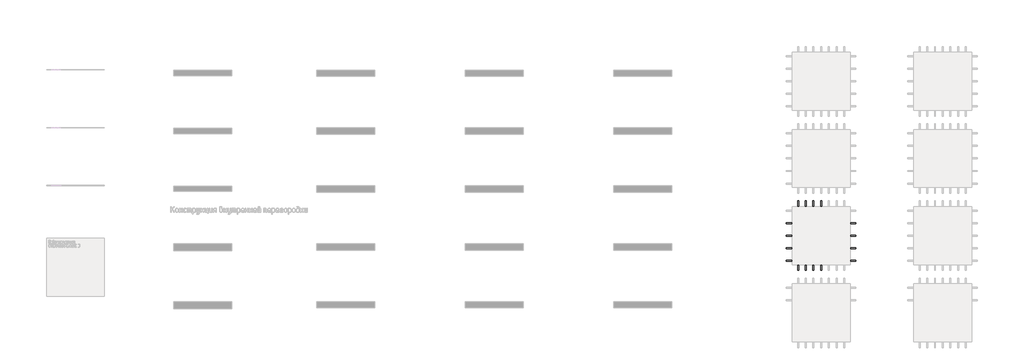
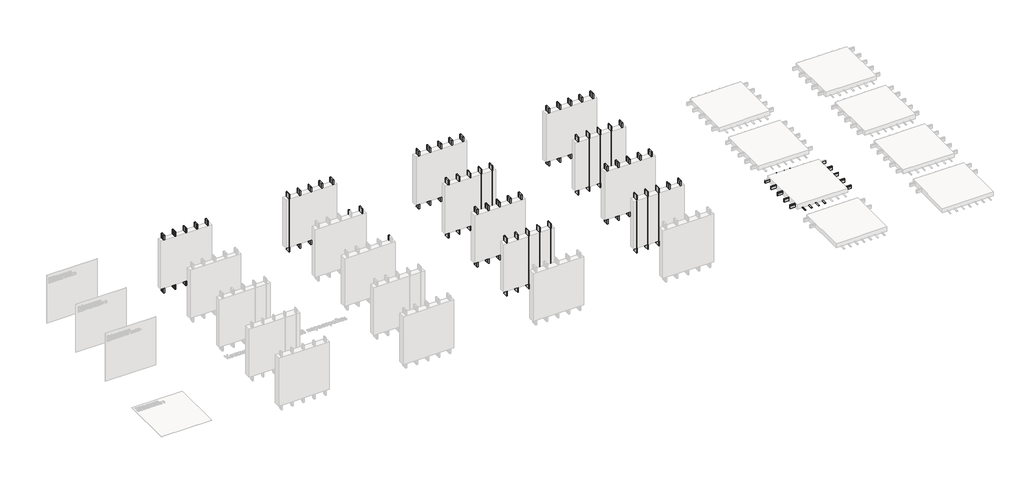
# One storey, part 4 of 42: 168 beams.
"""IFC4 building model written with IfcOpenShell, lengths in millimetres."""

from ifc_helpers import new_model, si_unit, origin, place, context, project, spatial, transform, mapped, element, save
from components import beam_10aa4ee0, beam_54a566a4, beam_d9e12bf5, beam_5dea3e8d

model = new_model("IFC4")

# Units and contexts
model_context = context("Model", 3, world=origin())
ifc_project = project(units=[si_unit("LENGTHUNIT", "METRE", prefix="MILLI")], contexts=[model_context])

# Site, building, storey
site = spatial("IfcSite", under=ifc_project)
building = spatial("IfcBuilding", under=site)
storey = spatial("IfcBuildingStorey", under=building, Name="Этаж 01", Elevation=0.0)

# Beams
placement = place(None, origin())
beam_shape = beam_10aa4ee0(model_context)
element("IfcBeam", 1, ObjectType="Деревянный брус : 50х150", at=placement, inside=storey, context=model_context, shape_type="MappedRepresentation", body=[
    mapped(beam_shape, transform((4863.2333353, -21996.8929597, 1500.0), x_axis=(0.0, 0.0, -1.0), y_axis=(1.0, 0.0, 0.0), z_axis=(0.0, -1.0, 0.0))),
])
element("IfcBeam", 2, ObjectType="Деревянный брус : 50х150", at=placement, inside=storey, context=model_context, shape_type="MappedRepresentation", body=[
    mapped(beam_shape, transform((4213.2333353, -21996.8929597, 1500.0), x_axis=(0.0, 0.0, -1.0), y_axis=(1.0, 0.0, 0.0), z_axis=(0.0, -1.0, 0.0))),
])
element("IfcBeam", 3, ObjectType="Деревянный брус : 50х150", at=placement, inside=storey, context=model_context, shape_type="MappedRepresentation", body=[
    mapped(beam_shape, transform((3563.2333353, -21996.8929597, 1500.0), x_axis=(0.0, 0.0, -1.0), y_axis=(1.0, 0.0, 0.0), z_axis=(0.0, -1.0, 0.0))),
])
element("IfcBeam", 4, ObjectType="Деревянный брус : 50х150", at=placement, inside=storey, context=model_context, shape_type="MappedRepresentation", body=[
    mapped(beam_shape, transform((2913.2333353, -21996.8929597, 1500.0), x_axis=(0.0, 0.0, -1.0), y_axis=(1.0, 0.0, 0.0), z_axis=(0.0, -1.0, 0.0))),
])
element("IfcBeam", 5, ObjectType="Деревянный брус : 50х150", at=placement, inside=storey, context=model_context, shape_type="MappedRepresentation", body=[
    mapped(beam_shape, transform((2263.2333353, -21996.8929597, 1500.0), x_axis=(0.0, 0.0, -1.0), y_axis=(1.0, 0.0, 0.0), z_axis=(0.0, -1.0, 0.0))),
])
element("IfcBeam", 6, ObjectType="Деревянный брус : 50х150", at=placement, inside=storey, context=model_context, shape_type="MappedRepresentation", body=[
    mapped(beam_shape, transform((35613.2067679, -31726.7844763, -151.0), x_axis=(-1.0, 0.0, 0.0), y_axis=(0.0, -1.0, 0.0), z_axis=(0.0, 0.0, 1.0))),
])
element("IfcBeam", 7, ObjectType="Деревянный брус : 50х150", at=placement, inside=storey, context=model_context, shape_type="MappedRepresentation", body=[
    mapped(beam_shape, transform((35613.2067679, -31076.7844763, -151.0), x_axis=(-1.0, 0.0, 0.0), y_axis=(0.0, -1.0, 0.0), z_axis=(0.0, 0.0, 1.0))),
])
element("IfcBeam", 8, ObjectType="Деревянный брус : 50х150", at=placement, inside=storey, context=model_context, shape_type="MappedRepresentation", body=[
    mapped(beam_shape, transform((35613.2067679, -30426.7844763, -151.0), x_axis=(-1.0, 0.0, 0.0), y_axis=(0.0, -1.0, 0.0), z_axis=(0.0, 0.0, 1.0))),
])
element("IfcBeam", 9, ObjectType="Деревянный брус : 50х150", at=placement, inside=storey, context=model_context, shape_type="MappedRepresentation", body=[
    mapped(beam_shape, transform((35613.2067679, -29776.7844763, -151.0), x_axis=(-1.0, 0.0, 0.0), y_axis=(0.0, -1.0, 0.0), z_axis=(0.0, 0.0, 1.0))),
])
element("IfcBeam", 10, ObjectType="Деревянный брус : 50х150", at=placement, inside=storey, context=model_context, shape_type="MappedRepresentation", body=[
    mapped(beam_shape, transform((35613.2067679, -29126.7844763, -151.0), x_axis=(-1.0, 0.0, 0.0), y_axis=(0.0, -1.0, 0.0), z_axis=(0.0, 0.0, 1.0))),
])
beam_2_shape = beam_54a566a4(model_context)
element("IfcBeam", 11, ObjectType="Деревянный брус : 50х50", at=placement, inside=storey, context=model_context, shape_type="MappedRepresentation", body=[
    mapped(beam_2_shape, transform((4863.2067679, -22097.7949231, 1500.0), x_axis=(0.0, 0.0, -1.0), y_axis=(-1.0, 0.0, 0.0), z_axis=(0.0, 1.0, 0.0))),
])
element("IfcBeam", 12, ObjectType="Деревянный брус : 50х50", at=placement, inside=storey, context=model_context, shape_type="MappedRepresentation", body=[
    mapped(beam_2_shape, transform((4213.2067679, -22097.7949231, 1500.0), x_axis=(0.0, 0.0, -1.0), y_axis=(-1.0, 0.0, 0.0), z_axis=(0.0, 1.0, 0.0))),
])
element("IfcBeam", 13, ObjectType="Деревянный брус : 50х50", at=placement, inside=storey, context=model_context, shape_type="MappedRepresentation", body=[
    mapped(beam_2_shape, transform((3563.2067679, -22097.7949231, 1500.0), x_axis=(0.0, 0.0, -1.0), y_axis=(-1.0, 0.0, 0.0), z_axis=(0.0, 1.0, 0.0))),
])
element("IfcBeam", 14, ObjectType="Деревянный брус : 50х50", at=placement, inside=storey, context=model_context, shape_type="MappedRepresentation", body=[
    mapped(beam_2_shape, transform((2913.2067679, -22097.7949231, 1500.0), x_axis=(0.0, 0.0, -1.0), y_axis=(-1.0, 0.0, 0.0), z_axis=(0.0, 1.0, 0.0))),
])
element("IfcBeam", 15, ObjectType="Деревянный брус : 50х50", at=placement, inside=storey, context=model_context, shape_type="MappedRepresentation", body=[
    mapped(beam_2_shape, transform((2263.2067679, -22097.7949231, 1500.0), x_axis=(0.0, 0.0, -1.0), y_axis=(-1.0, 0.0, 0.0), z_axis=(0.0, 1.0, 0.0))),
])
element("IfcBeam", 16, ObjectType="Деревянный брус : 50х50", at=placement, inside=storey, context=model_context, shape_type="MappedRepresentation", body=[
    mapped(beam_2_shape, transform((4863.2067679, -21895.8929597, 1500.0), x_axis=(0.0, 0.0, -1.0), y_axis=(1.0, 0.0, 0.0), z_axis=(0.0, -1.0, 0.0))),
])
element("IfcBeam", 17, ObjectType="Деревянный брус : 50х50", at=placement, inside=storey, context=model_context, shape_type="MappedRepresentation", body=[
    mapped(beam_2_shape, transform((4213.2067679, -21895.8929597, 1500.0), x_axis=(0.0, 0.0, -1.0), y_axis=(1.0, 0.0, 0.0), z_axis=(0.0, -1.0, 0.0))),
])
element("IfcBeam", 18, ObjectType="Деревянный брус : 50х50", at=placement, inside=storey, context=model_context, shape_type="MappedRepresentation", body=[
    mapped(beam_2_shape, transform((3563.2067679, -21895.8929597, 1500.0), x_axis=(0.0, 0.0, -1.0), y_axis=(1.0, 0.0, 0.0), z_axis=(0.0, -1.0, 0.0))),
])
element("IfcBeam", 19, ObjectType="Деревянный брус : 50х50", at=placement, inside=storey, context=model_context, shape_type="MappedRepresentation", body=[
    mapped(beam_2_shape, transform((2913.2067679, -21895.8929597, 1500.0), x_axis=(0.0, 0.0, -1.0), y_axis=(1.0, 0.0, 0.0), z_axis=(0.0, -1.0, 0.0))),
])
element("IfcBeam", 20, ObjectType="Деревянный брус : 50х50", at=placement, inside=storey, context=model_context, shape_type="MappedRepresentation", body=[
    mapped(beam_2_shape, transform((2263.2067679, -21895.8929597, 1500.0), x_axis=(0.0, 0.0, -1.0), y_axis=(1.0, 0.0, 0.0), z_axis=(0.0, -1.0, 0.0))),
])
element("IfcBeam", 21, ObjectType="Деревянный брус : 50х50", at=placement, inside=storey, context=model_context, shape_type="MappedRepresentation", body=[
    mapped(beam_2_shape, transform((12263.2067679, -27883.8929597, 1500.0), x_axis=(0.0, 0.0, -1.0), y_axis=(1.0, 0.0, 0.0), z_axis=(0.0, -1.0, 0.0))),
])
element("IfcBeam", 22, ObjectType="Деревянный брус : 50х50", at=placement, inside=storey, context=model_context, shape_type="MappedRepresentation", body=[
    mapped(beam_2_shape, transform((12263.2067679, -25135.8929597, 1500.0), x_axis=(0.0, 0.0, -1.0), y_axis=(-1.0, 0.0, 0.0), z_axis=(0.0, 1.0, 0.0))),
])
element("IfcBeam", 23, ObjectType="Деревянный брус : 50х50", at=placement, inside=storey, context=model_context, shape_type="MappedRepresentation", body=[
    mapped(beam_2_shape, transform((12263.2067679, -24883.8929597, 1500.0), x_axis=(0.0, 0.0, -1.0), y_axis=(1.0, 0.0, 0.0), z_axis=(0.0, -1.0, 0.0))),
])
element("IfcBeam", 24, ObjectType="Деревянный брус : 50х50", at=placement, inside=storey, context=model_context, shape_type="MappedRepresentation", body=[
    mapped(beam_2_shape, transform((11613.2067679, -24883.8929597, 1500.0), x_axis=(0.0, 0.0, -1.0), y_axis=(1.0, 0.0, 0.0), z_axis=(0.0, -1.0, 0.0))),
])
element("IfcBeam", 25, ObjectType="Деревянный брус : 50х50", at=placement, inside=storey, context=model_context, shape_type="MappedRepresentation", body=[
    mapped(beam_2_shape, transform((12263.2067679, -22135.8929597, 1500.0), x_axis=(0.0, 0.0, -1.0), y_axis=(-1.0, 0.0, 0.0), z_axis=(0.0, 1.0, 0.0))),
])
element("IfcBeam", 26, ObjectType="Деревянный брус : 50х50", at=placement, inside=storey, context=model_context, shape_type="MappedRepresentation", body=[
    mapped(beam_2_shape, transform((11613.2067679, -22135.8929597, 1500.0), x_axis=(0.0, 0.0, -1.0), y_axis=(-1.0, 0.0, 0.0), z_axis=(0.0, 1.0, 0.0))),
])
element("IfcBeam", 27, ObjectType="Деревянный брус : 50х50", at=placement, inside=storey, context=model_context, shape_type="MappedRepresentation", body=[
    mapped(beam_2_shape, transform((10963.2067679, -22135.8929597, 1500.0), x_axis=(0.0, 0.0, -1.0), y_axis=(-1.0, 0.0, 0.0), z_axis=(0.0, 1.0, 0.0))),
])
element("IfcBeam", 28, ObjectType="Деревянный брус : 50х50", at=placement, inside=storey, context=model_context, shape_type="MappedRepresentation", body=[
    mapped(beam_2_shape, transform((10313.2067679, -22135.8929597, 1500.0), x_axis=(0.0, 0.0, -1.0), y_axis=(-1.0, 0.0, 0.0), z_axis=(0.0, 1.0, 0.0))),
])
element("IfcBeam", 29, ObjectType="Деревянный брус : 50х50", at=placement, inside=storey, context=model_context, shape_type="MappedRepresentation", body=[
    mapped(beam_2_shape, transform((9663.2067679, -22135.8929597, 1500.0), x_axis=(0.0, 0.0, -1.0), y_axis=(-1.0, 0.0, 0.0), z_axis=(0.0, 1.0, 0.0))),
])
element("IfcBeam", 30, ObjectType="Деревянный брус : 50х50", at=placement, inside=storey, context=model_context, shape_type="MappedRepresentation", body=[
    mapped(beam_2_shape, transform((12263.2067679, -21883.8929597, 1500.0), x_axis=(0.0, 0.0, -1.0), y_axis=(1.0, 0.0, 0.0), z_axis=(0.0, -1.0, 0.0))),
])
element("IfcBeam", 31, ObjectType="Деревянный брус : 50х50", at=placement, inside=storey, context=model_context, shape_type="MappedRepresentation", body=[
    mapped(beam_2_shape, transform((11613.2067679, -21883.8929597, 1500.0), x_axis=(0.0, 0.0, -1.0), y_axis=(1.0, 0.0, 0.0), z_axis=(0.0, -1.0, 0.0))),
])
element("IfcBeam", 32, ObjectType="Деревянный брус : 50х50", at=placement, inside=storey, context=model_context, shape_type="MappedRepresentation", body=[
    mapped(beam_2_shape, transform((10963.2067679, -21883.8929597, 1500.0), x_axis=(0.0, 0.0, -1.0), y_axis=(1.0, 0.0, 0.0), z_axis=(0.0, -1.0, 0.0))),
])
element("IfcBeam", 33, ObjectType="Деревянный брус : 50х50", at=placement, inside=storey, context=model_context, shape_type="MappedRepresentation", body=[
    mapped(beam_2_shape, transform((10313.2067679, -21883.8929597, 1500.0), x_axis=(0.0, 0.0, -1.0), y_axis=(1.0, 0.0, 0.0), z_axis=(0.0, -1.0, 0.0))),
])
element("IfcBeam", 34, ObjectType="Деревянный брус : 50х50", at=placement, inside=storey, context=model_context, shape_type="MappedRepresentation", body=[
    mapped(beam_2_shape, transform((9663.2067679, -21883.8929597, 1500.0), x_axis=(0.0, 0.0, -1.0), y_axis=(1.0, 0.0, 0.0), z_axis=(0.0, -1.0, 0.0))),
])
element("IfcBeam", 35, ObjectType="Деревянный брус : 50х50", at=placement, inside=storey, context=model_context, shape_type="MappedRepresentation", body=[
    mapped(beam_2_shape, transform((19963.2067679, -31135.8929597, 1500.0), x_axis=(0.0, 0.0, -1.0), y_axis=(-1.0, 0.0, 0.0), z_axis=(0.0, 1.0, 0.0))),
])
element("IfcBeam", 36, ObjectType="Деревянный брус : 50х50", at=placement, inside=storey, context=model_context, shape_type="MappedRepresentation", body=[
    mapped(beam_2_shape, transform((19313.2067679, -31135.8929597, 1500.0), x_axis=(0.0, 0.0, -1.0), y_axis=(-1.0, 0.0, 0.0), z_axis=(0.0, 1.0, 0.0))),
])
element("IfcBeam", 37, ObjectType="Деревянный брус : 50х50", at=placement, inside=storey, context=model_context, shape_type="MappedRepresentation", body=[
    mapped(beam_2_shape, transform((18663.2067679, -31135.8929597, 1500.0), x_axis=(0.0, 0.0, -1.0), y_axis=(-1.0, 0.0, 0.0), z_axis=(0.0, 1.0, 0.0))),
])
element("IfcBeam", 38, ObjectType="Деревянный брус : 50х50", at=placement, inside=storey, context=model_context, shape_type="MappedRepresentation", body=[
    mapped(beam_2_shape, transform((18013.2067679, -31135.8929597, 1500.0), x_axis=(0.0, 0.0, -1.0), y_axis=(-1.0, 0.0, 0.0), z_axis=(0.0, 1.0, 0.0))),
])
element("IfcBeam", 39, ObjectType="Деревянный брус : 50х50", at=placement, inside=storey, context=model_context, shape_type="MappedRepresentation", body=[
    mapped(beam_2_shape, transform((17363.2067679, -31135.8929597, 1500.0), x_axis=(0.0, 0.0, -1.0), y_axis=(-1.0, 0.0, 0.0), z_axis=(0.0, 1.0, 0.0))),
])
element("IfcBeam", 40, ObjectType="Деревянный брус : 50х50", at=placement, inside=storey, context=model_context, shape_type="MappedRepresentation", body=[
    mapped(beam_2_shape, transform((19963.2067679, -30883.8929597, 1500.0), x_axis=(0.0, 0.0, -1.0), y_axis=(1.0, 0.0, 0.0), z_axis=(0.0, -1.0, 0.0))),
])
element("IfcBeam", 41, ObjectType="Деревянный брус : 50х50", at=placement, inside=storey, context=model_context, shape_type="MappedRepresentation", body=[
    mapped(beam_2_shape, transform((19313.2067679, -30883.8929597, 1500.0), x_axis=(0.0, 0.0, -1.0), y_axis=(1.0, 0.0, 0.0), z_axis=(0.0, -1.0, 0.0))),
])
element("IfcBeam", 42, ObjectType="Деревянный брус : 50х50", at=placement, inside=storey, context=model_context, shape_type="MappedRepresentation", body=[
    mapped(beam_2_shape, transform((18663.2067679, -30883.8929597, 1500.0), x_axis=(0.0, 0.0, -1.0), y_axis=(1.0, 0.0, 0.0), z_axis=(0.0, -1.0, 0.0))),
])
element("IfcBeam", 43, ObjectType="Деревянный брус : 50х50", at=placement, inside=storey, context=model_context, shape_type="MappedRepresentation", body=[
    mapped(beam_2_shape, transform((18013.2067679, -30883.8929597, 1500.0), x_axis=(0.0, 0.0, -1.0), y_axis=(1.0, 0.0, 0.0), z_axis=(0.0, -1.0, 0.0))),
])
element("IfcBeam", 44, ObjectType="Деревянный брус : 50х50", at=placement, inside=storey, context=model_context, shape_type="MappedRepresentation", body=[
    mapped(beam_2_shape, transform((17363.2067679, -30883.8929597, 1500.0), x_axis=(0.0, 0.0, -1.0), y_axis=(1.0, 0.0, 0.0), z_axis=(0.0, -1.0, 0.0))),
])
element("IfcBeam", 45, ObjectType="Деревянный брус : 50х50", at=placement, inside=storey, context=model_context, shape_type="MappedRepresentation", body=[
    mapped(beam_2_shape, transform((19963.2067679, -28135.8929597, 1500.0), x_axis=(0.0, 0.0, -1.0), y_axis=(-1.0, 0.0, 0.0), z_axis=(0.0, 1.0, 0.0))),
])
element("IfcBeam", 46, ObjectType="Деревянный брус : 50х50", at=placement, inside=storey, context=model_context, shape_type="MappedRepresentation", body=[
    mapped(beam_2_shape, transform((19313.2067679, -28135.8929597, 1500.0), x_axis=(0.0, 0.0, -1.0), y_axis=(-1.0, 0.0, 0.0), z_axis=(0.0, 1.0, 0.0))),
])
element("IfcBeam", 47, ObjectType="Деревянный брус : 50х50", at=placement, inside=storey, context=model_context, shape_type="MappedRepresentation", body=[
    mapped(beam_2_shape, transform((18663.2067679, -28135.8929597, 1500.0), x_axis=(0.0, 0.0, -1.0), y_axis=(-1.0, 0.0, 0.0), z_axis=(0.0, 1.0, 0.0))),
])
element("IfcBeam", 48, ObjectType="Деревянный брус : 50х50", at=placement, inside=storey, context=model_context, shape_type="MappedRepresentation", body=[
    mapped(beam_2_shape, transform((18013.2067679, -28135.8929597, 1500.0), x_axis=(0.0, 0.0, -1.0), y_axis=(-1.0, 0.0, 0.0), z_axis=(0.0, 1.0, 0.0))),
])
element("IfcBeam", 49, ObjectType="Деревянный брус : 50х50", at=placement, inside=storey, context=model_context, shape_type="MappedRepresentation", body=[
    mapped(beam_2_shape, transform((17363.2067679, -28135.8929597, 1500.0), x_axis=(0.0, 0.0, -1.0), y_axis=(-1.0, 0.0, 0.0), z_axis=(0.0, 1.0, 0.0))),
])
element("IfcBeam", 50, ObjectType="Деревянный брус : 50х50", at=placement, inside=storey, context=model_context, shape_type="MappedRepresentation", body=[
    mapped(beam_2_shape, transform((19963.2067679, -27883.8929597, 1500.0), x_axis=(0.0, 0.0, -1.0), y_axis=(1.0, 0.0, 0.0), z_axis=(0.0, -1.0, 0.0))),
])
element("IfcBeam", 51, ObjectType="Деревянный брус : 50х50", at=placement, inside=storey, context=model_context, shape_type="MappedRepresentation", body=[
    mapped(beam_2_shape, transform((19313.2067679, -27883.8929597, 1500.0), x_axis=(0.0, 0.0, -1.0), y_axis=(1.0, 0.0, 0.0), z_axis=(0.0, -1.0, 0.0))),
])
element("IfcBeam", 52, ObjectType="Деревянный брус : 50х50", at=placement, inside=storey, context=model_context, shape_type="MappedRepresentation", body=[
    mapped(beam_2_shape, transform((18663.2067679, -27883.8929597, 1500.0), x_axis=(0.0, 0.0, -1.0), y_axis=(1.0, 0.0, 0.0), z_axis=(0.0, -1.0, 0.0))),
])
element("IfcBeam", 53, ObjectType="Деревянный брус : 50х50", at=placement, inside=storey, context=model_context, shape_type="MappedRepresentation", body=[
    mapped(beam_2_shape, transform((18013.2067679, -27883.8929597, 1500.0), x_axis=(0.0, 0.0, -1.0), y_axis=(1.0, 0.0, 0.0), z_axis=(0.0, -1.0, 0.0))),
])
element("IfcBeam", 54, ObjectType="Деревянный брус : 50х50", at=placement, inside=storey, context=model_context, shape_type="MappedRepresentation", body=[
    mapped(beam_2_shape, transform((17363.2067679, -27883.8929597, 1500.0), x_axis=(0.0, 0.0, -1.0), y_axis=(1.0, 0.0, 0.0), z_axis=(0.0, -1.0, 0.0))),
])
element("IfcBeam", 55, ObjectType="Деревянный брус : 50х50", at=placement, inside=storey, context=model_context, shape_type="MappedRepresentation", body=[
    mapped(beam_2_shape, transform((19963.2067679, -25135.8929597, 1500.0), x_axis=(0.0, 0.0, -1.0), y_axis=(-1.0, 0.0, 0.0), z_axis=(0.0, 1.0, 0.0))),
])
element("IfcBeam", 56, ObjectType="Деревянный брус : 50х50", at=placement, inside=storey, context=model_context, shape_type="MappedRepresentation", body=[
    mapped(beam_2_shape, transform((19313.2067679, -25135.8929597, 1500.0), x_axis=(0.0, 0.0, -1.0), y_axis=(-1.0, 0.0, 0.0), z_axis=(0.0, 1.0, 0.0))),
])
element("IfcBeam", 57, ObjectType="Деревянный брус : 50х50", at=placement, inside=storey, context=model_context, shape_type="MappedRepresentation", body=[
    mapped(beam_2_shape, transform((18663.2067679, -25135.8929597, 1500.0), x_axis=(0.0, 0.0, -1.0), y_axis=(-1.0, 0.0, 0.0), z_axis=(0.0, 1.0, 0.0))),
])
element("IfcBeam", 58, ObjectType="Деревянный брус : 50х50", at=placement, inside=storey, context=model_context, shape_type="MappedRepresentation", body=[
    mapped(beam_2_shape, transform((18013.2067679, -25135.8929597, 1500.0), x_axis=(0.0, 0.0, -1.0), y_axis=(-1.0, 0.0, 0.0), z_axis=(0.0, 1.0, 0.0))),
])
element("IfcBeam", 59, ObjectType="Деревянный брус : 50х50", at=placement, inside=storey, context=model_context, shape_type="MappedRepresentation", body=[
    mapped(beam_2_shape, transform((17363.2067679, -25135.8929597, 1500.0), x_axis=(0.0, 0.0, -1.0), y_axis=(-1.0, 0.0, 0.0), z_axis=(0.0, 1.0, 0.0))),
])
element("IfcBeam", 60, ObjectType="Деревянный брус : 50х50", at=placement, inside=storey, context=model_context, shape_type="MappedRepresentation", body=[
    mapped(beam_2_shape, transform((19963.2067679, -24883.8929597, 1500.0), x_axis=(0.0, 0.0, -1.0), y_axis=(1.0, 0.0, 0.0), z_axis=(0.0, -1.0, 0.0))),
])
element("IfcBeam", 61, ObjectType="Деревянный брус : 50х50", at=placement, inside=storey, context=model_context, shape_type="MappedRepresentation", body=[
    mapped(beam_2_shape, transform((19313.2067679, -24883.8929597, 1500.0), x_axis=(0.0, 0.0, -1.0), y_axis=(1.0, 0.0, 0.0), z_axis=(0.0, -1.0, 0.0))),
])
element("IfcBeam", 62, ObjectType="Деревянный брус : 50х50", at=placement, inside=storey, context=model_context, shape_type="MappedRepresentation", body=[
    mapped(beam_2_shape, transform((18663.2067679, -24883.8929597, 1500.0), x_axis=(0.0, 0.0, -1.0), y_axis=(1.0, 0.0, 0.0), z_axis=(0.0, -1.0, 0.0))),
])
element("IfcBeam", 63, ObjectType="Деревянный брус : 50х50", at=placement, inside=storey, context=model_context, shape_type="MappedRepresentation", body=[
    mapped(beam_2_shape, transform((18013.2067679, -24883.8929597, 1500.0), x_axis=(0.0, 0.0, -1.0), y_axis=(1.0, 0.0, 0.0), z_axis=(0.0, -1.0, 0.0))),
])
element("IfcBeam", 64, ObjectType="Деревянный брус : 50х50", at=placement, inside=storey, context=model_context, shape_type="MappedRepresentation", body=[
    mapped(beam_2_shape, transform((17363.2067679, -24883.8929597, 1500.0), x_axis=(0.0, 0.0, -1.0), y_axis=(1.0, 0.0, 0.0), z_axis=(0.0, -1.0, 0.0))),
])
element("IfcBeam", 65, ObjectType="Деревянный брус : 50х50", at=placement, inside=storey, context=model_context, shape_type="MappedRepresentation", body=[
    mapped(beam_2_shape, transform((19963.2067679, -22135.8929597, 1500.0), x_axis=(0.0, 0.0, -1.0), y_axis=(-1.0, 0.0, 0.0), z_axis=(0.0, 1.0, 0.0))),
])
element("IfcBeam", 66, ObjectType="Деревянный брус : 50х50", at=placement, inside=storey, context=model_context, shape_type="MappedRepresentation", body=[
    mapped(beam_2_shape, transform((19313.2067679, -22135.8929597, 1500.0), x_axis=(0.0, 0.0, -1.0), y_axis=(-1.0, 0.0, 0.0), z_axis=(0.0, 1.0, 0.0))),
])
element("IfcBeam", 67, ObjectType="Деревянный брус : 50х50", at=placement, inside=storey, context=model_context, shape_type="MappedRepresentation", body=[
    mapped(beam_2_shape, transform((18663.2067679, -22135.8929597, 1500.0), x_axis=(0.0, 0.0, -1.0), y_axis=(-1.0, 0.0, 0.0), z_axis=(0.0, 1.0, 0.0))),
])
element("IfcBeam", 68, ObjectType="Деревянный брус : 50х50", at=placement, inside=storey, context=model_context, shape_type="MappedRepresentation", body=[
    mapped(beam_2_shape, transform((18013.2067679, -22135.8929597, 1500.0), x_axis=(0.0, 0.0, -1.0), y_axis=(-1.0, 0.0, 0.0), z_axis=(0.0, 1.0, 0.0))),
])
element("IfcBeam", 69, ObjectType="Деревянный брус : 50х50", at=placement, inside=storey, context=model_context, shape_type="MappedRepresentation", body=[
    mapped(beam_2_shape, transform((17363.2067679, -22135.8929597, 1500.0), x_axis=(0.0, 0.0, -1.0), y_axis=(-1.0, 0.0, 0.0), z_axis=(0.0, 1.0, 0.0))),
])
element("IfcBeam", 70, ObjectType="Деревянный брус : 50х50", at=placement, inside=storey, context=model_context, shape_type="MappedRepresentation", body=[
    mapped(beam_2_shape, transform((19963.2067679, -21883.8929597, 1500.0), x_axis=(0.0, 0.0, -1.0), y_axis=(1.0, 0.0, 0.0), z_axis=(0.0, -1.0, 0.0))),
])
element("IfcBeam", 71, ObjectType="Деревянный брус : 50х50", at=placement, inside=storey, context=model_context, shape_type="MappedRepresentation", body=[
    mapped(beam_2_shape, transform((19313.2067679, -21883.8929597, 1500.0), x_axis=(0.0, 0.0, -1.0), y_axis=(1.0, 0.0, 0.0), z_axis=(0.0, -1.0, 0.0))),
])
element("IfcBeam", 72, ObjectType="Деревянный брус : 50х50", at=placement, inside=storey, context=model_context, shape_type="MappedRepresentation", body=[
    mapped(beam_2_shape, transform((18663.2067679, -21883.8929597, 1500.0), x_axis=(0.0, 0.0, -1.0), y_axis=(1.0, 0.0, 0.0), z_axis=(0.0, -1.0, 0.0))),
])
element("IfcBeam", 73, ObjectType="Деревянный брус : 50х50", at=placement, inside=storey, context=model_context, shape_type="MappedRepresentation", body=[
    mapped(beam_2_shape, transform((18013.2067679, -21883.8929597, 1500.0), x_axis=(0.0, 0.0, -1.0), y_axis=(1.0, 0.0, 0.0), z_axis=(0.0, -1.0, 0.0))),
])
element("IfcBeam", 74, ObjectType="Деревянный брус : 50х50", at=placement, inside=storey, context=model_context, shape_type="MappedRepresentation", body=[
    mapped(beam_2_shape, transform((17363.2067679, -21883.8929597, 1500.0), x_axis=(0.0, 0.0, -1.0), y_axis=(1.0, 0.0, 0.0), z_axis=(0.0, -1.0, 0.0))),
])
element("IfcBeam", 75, ObjectType="Деревянный брус : 50х50", at=placement, inside=storey, context=model_context, shape_type="MappedRepresentation", body=[
    mapped(beam_2_shape, transform((27663.2067679, -31135.8929597, 1500.0), x_axis=(0.0, 0.0, -1.0), y_axis=(-1.0, 0.0, 0.0), z_axis=(0.0, 1.0, 0.0))),
])
element("IfcBeam", 76, ObjectType="Деревянный брус : 50х50", at=placement, inside=storey, context=model_context, shape_type="MappedRepresentation", body=[
    mapped(beam_2_shape, transform((27013.2067679, -31135.8929597, 1500.0), x_axis=(0.0, 0.0, -1.0), y_axis=(-1.0, 0.0, 0.0), z_axis=(0.0, 1.0, 0.0))),
])
element("IfcBeam", 77, ObjectType="Деревянный брус : 50х50", at=placement, inside=storey, context=model_context, shape_type="MappedRepresentation", body=[
    mapped(beam_2_shape, transform((26363.2067679, -31135.8929597, 1500.0), x_axis=(0.0, 0.0, -1.0), y_axis=(-1.0, 0.0, 0.0), z_axis=(0.0, 1.0, 0.0))),
])
element("IfcBeam", 78, ObjectType="Деревянный брус : 50х50", at=placement, inside=storey, context=model_context, shape_type="MappedRepresentation", body=[
    mapped(beam_2_shape, transform((25713.2067679, -31135.8929597, 1500.0), x_axis=(0.0, 0.0, -1.0), y_axis=(-1.0, 0.0, 0.0), z_axis=(0.0, 1.0, 0.0))),
])
element("IfcBeam", 79, ObjectType="Деревянный брус : 50х50", at=placement, inside=storey, context=model_context, shape_type="MappedRepresentation", body=[
    mapped(beam_2_shape, transform((25063.2067679, -31135.8929597, 1500.0), x_axis=(0.0, 0.0, -1.0), y_axis=(-1.0, 0.0, 0.0), z_axis=(0.0, 1.0, 0.0))),
])
element("IfcBeam", 80, ObjectType="Деревянный брус : 50х50", at=placement, inside=storey, context=model_context, shape_type="MappedRepresentation", body=[
    mapped(beam_2_shape, transform((27663.2067679, -30883.8929597, 1500.0), x_axis=(0.0, 0.0, -1.0), y_axis=(1.0, 0.0, 0.0), z_axis=(0.0, -1.0, 0.0))),
])
element("IfcBeam", 81, ObjectType="Деревянный брус : 50х50", at=placement, inside=storey, context=model_context, shape_type="MappedRepresentation", body=[
    mapped(beam_2_shape, transform((27013.2067679, -30883.8929597, 1500.0), x_axis=(0.0, 0.0, -1.0), y_axis=(1.0, 0.0, 0.0), z_axis=(0.0, -1.0, 0.0))),
])
element("IfcBeam", 82, ObjectType="Деревянный брус : 50х50", at=placement, inside=storey, context=model_context, shape_type="MappedRepresentation", body=[
    mapped(beam_2_shape, transform((26363.2067679, -30883.8929597, 1500.0), x_axis=(0.0, 0.0, -1.0), y_axis=(1.0, 0.0, 0.0), z_axis=(0.0, -1.0, 0.0))),
])
element("IfcBeam", 83, ObjectType="Деревянный брус : 50х50", at=placement, inside=storey, context=model_context, shape_type="MappedRepresentation", body=[
    mapped(beam_2_shape, transform((25713.2067679, -30883.8929597, 1500.0), x_axis=(0.0, 0.0, -1.0), y_axis=(1.0, 0.0, 0.0), z_axis=(0.0, -1.0, 0.0))),
])
element("IfcBeam", 84, ObjectType="Деревянный брус : 50х50", at=placement, inside=storey, context=model_context, shape_type="MappedRepresentation", body=[
    mapped(beam_2_shape, transform((25063.2067679, -30883.8929597, 1500.0), x_axis=(0.0, 0.0, -1.0), y_axis=(1.0, 0.0, 0.0), z_axis=(0.0, -1.0, 0.0))),
])
element("IfcBeam", 85, ObjectType="Деревянный брус : 50х50", at=placement, inside=storey, context=model_context, shape_type="MappedRepresentation", body=[
    mapped(beam_2_shape, transform((27663.2067679, -28135.8929597, 1500.0), x_axis=(0.0, 0.0, -1.0), y_axis=(-1.0, 0.0, 0.0), z_axis=(0.0, 1.0, 0.0))),
])
element("IfcBeam", 86, ObjectType="Деревянный брус : 50х50", at=placement, inside=storey, context=model_context, shape_type="MappedRepresentation", body=[
    mapped(beam_2_shape, transform((27013.2067679, -28135.8929597, 1500.0), x_axis=(0.0, 0.0, -1.0), y_axis=(-1.0, 0.0, 0.0), z_axis=(0.0, 1.0, 0.0))),
])
element("IfcBeam", 87, ObjectType="Деревянный брус : 50х50", at=placement, inside=storey, context=model_context, shape_type="MappedRepresentation", body=[
    mapped(beam_2_shape, transform((26363.2067679, -28135.8929597, 1500.0), x_axis=(0.0, 0.0, -1.0), y_axis=(-1.0, 0.0, 0.0), z_axis=(0.0, 1.0, 0.0))),
])
element("IfcBeam", 88, ObjectType="Деревянный брус : 50х50", at=placement, inside=storey, context=model_context, shape_type="MappedRepresentation", body=[
    mapped(beam_2_shape, transform((25713.2067679, -28135.8929597, 1500.0), x_axis=(0.0, 0.0, -1.0), y_axis=(-1.0, 0.0, 0.0), z_axis=(0.0, 1.0, 0.0))),
])
element("IfcBeam", 89, ObjectType="Деревянный брус : 50х50", at=placement, inside=storey, context=model_context, shape_type="MappedRepresentation", body=[
    mapped(beam_2_shape, transform((25063.2067679, -28135.8929597, 1500.0), x_axis=(0.0, 0.0, -1.0), y_axis=(-1.0, 0.0, 0.0), z_axis=(0.0, 1.0, 0.0))),
])
element("IfcBeam", 90, ObjectType="Деревянный брус : 50х50", at=placement, inside=storey, context=model_context, shape_type="MappedRepresentation", body=[
    mapped(beam_2_shape, transform((27663.2067679, -27883.8929597, 1500.0), x_axis=(0.0, 0.0, -1.0), y_axis=(1.0, 0.0, 0.0), z_axis=(0.0, -1.0, 0.0))),
])
element("IfcBeam", 91, ObjectType="Деревянный брус : 50х50", at=placement, inside=storey, context=model_context, shape_type="MappedRepresentation", body=[
    mapped(beam_2_shape, transform((27013.2067679, -27883.8929597, 1500.0), x_axis=(0.0, 0.0, -1.0), y_axis=(1.0, 0.0, 0.0), z_axis=(0.0, -1.0, 0.0))),
])
element("IfcBeam", 92, ObjectType="Деревянный брус : 50х50", at=placement, inside=storey, context=model_context, shape_type="MappedRepresentation", body=[
    mapped(beam_2_shape, transform((26363.2067679, -27883.8929597, 1500.0), x_axis=(0.0, 0.0, -1.0), y_axis=(1.0, 0.0, 0.0), z_axis=(0.0, -1.0, 0.0))),
])
element("IfcBeam", 93, ObjectType="Деревянный брус : 50х50", at=placement, inside=storey, context=model_context, shape_type="MappedRepresentation", body=[
    mapped(beam_2_shape, transform((25713.2067679, -27883.8929597, 1500.0), x_axis=(0.0, 0.0, -1.0), y_axis=(1.0, 0.0, 0.0), z_axis=(0.0, -1.0, 0.0))),
])
element("IfcBeam", 94, ObjectType="Деревянный брус : 50х50", at=placement, inside=storey, context=model_context, shape_type="MappedRepresentation", body=[
    mapped(beam_2_shape, transform((25063.2067679, -27883.8929597, 1500.0), x_axis=(0.0, 0.0, -1.0), y_axis=(1.0, 0.0, 0.0), z_axis=(0.0, -1.0, 0.0))),
])
element("IfcBeam", 95, ObjectType="Деревянный брус : 50х50", at=placement, inside=storey, context=model_context, shape_type="MappedRepresentation", body=[
    mapped(beam_2_shape, transform((27663.2067679, -25135.8929597, 1500.0), x_axis=(0.0, 0.0, -1.0), y_axis=(-1.0, 0.0, 0.0), z_axis=(0.0, 1.0, 0.0))),
])
element("IfcBeam", 96, ObjectType="Деревянный брус : 50х50", at=placement, inside=storey, context=model_context, shape_type="MappedRepresentation", body=[
    mapped(beam_2_shape, transform((27013.2067679, -25135.8929597, 1500.0), x_axis=(0.0, 0.0, -1.0), y_axis=(-1.0, 0.0, 0.0), z_axis=(0.0, 1.0, 0.0))),
])
element("IfcBeam", 97, ObjectType="Деревянный брус : 50х50", at=placement, inside=storey, context=model_context, shape_type="MappedRepresentation", body=[
    mapped(beam_2_shape, transform((26363.2067679, -25135.8929597, 1500.0), x_axis=(0.0, 0.0, -1.0), y_axis=(-1.0, 0.0, 0.0), z_axis=(0.0, 1.0, 0.0))),
])
element("IfcBeam", 98, ObjectType="Деревянный брус : 50х50", at=placement, inside=storey, context=model_context, shape_type="MappedRepresentation", body=[
    mapped(beam_2_shape, transform((25713.2067679, -25135.8929597, 1500.0), x_axis=(0.0, 0.0, -1.0), y_axis=(-1.0, 0.0, 0.0), z_axis=(0.0, 1.0, 0.0))),
])
element("IfcBeam", 99, ObjectType="Деревянный брус : 50х50", at=placement, inside=storey, context=model_context, shape_type="MappedRepresentation", body=[
    mapped(beam_2_shape, transform((25063.2067679, -25135.8929597, 1500.0), x_axis=(0.0, 0.0, -1.0), y_axis=(-1.0, 0.0, 0.0), z_axis=(0.0, 1.0, 0.0))),
])
element("IfcBeam", 100, ObjectType="Деревянный брус : 50х50", at=placement, inside=storey, context=model_context, shape_type="MappedRepresentation", body=[
    mapped(beam_2_shape, transform((27663.2067679, -24883.8929597, 1500.0), x_axis=(0.0, 0.0, -1.0), y_axis=(1.0, 0.0, 0.0), z_axis=(0.0, -1.0, 0.0))),
])
element("IfcBeam", 101, ObjectType="Деревянный брус : 50х50", at=placement, inside=storey, context=model_context, shape_type="MappedRepresentation", body=[
    mapped(beam_2_shape, transform((27013.2067679, -24883.8929597, 1500.0), x_axis=(0.0, 0.0, -1.0), y_axis=(1.0, 0.0, 0.0), z_axis=(0.0, -1.0, 0.0))),
])
element("IfcBeam", 102, ObjectType="Деревянный брус : 50х50", at=placement, inside=storey, context=model_context, shape_type="MappedRepresentation", body=[
    mapped(beam_2_shape, transform((26363.2067679, -24883.8929597, 1500.0), x_axis=(0.0, 0.0, -1.0), y_axis=(1.0, 0.0, 0.0), z_axis=(0.0, -1.0, 0.0))),
])
element("IfcBeam", 103, ObjectType="Деревянный брус : 50х50", at=placement, inside=storey, context=model_context, shape_type="MappedRepresentation", body=[
    mapped(beam_2_shape, transform((25713.2067679, -24883.8929597, 1500.0), x_axis=(0.0, 0.0, -1.0), y_axis=(1.0, 0.0, 0.0), z_axis=(0.0, -1.0, 0.0))),
])
element("IfcBeam", 104, ObjectType="Деревянный брус : 50х50", at=placement, inside=storey, context=model_context, shape_type="MappedRepresentation", body=[
    mapped(beam_2_shape, transform((25063.2067679, -24883.8929597, 1500.0), x_axis=(0.0, 0.0, -1.0), y_axis=(1.0, 0.0, 0.0), z_axis=(0.0, -1.0, 0.0))),
])
element("IfcBeam", 105, ObjectType="Деревянный брус : 50х50", at=placement, inside=storey, context=model_context, shape_type="MappedRepresentation", body=[
    mapped(beam_2_shape, transform((27663.2067679, -22135.8929597, 1500.0), x_axis=(0.0, 0.0, -1.0), y_axis=(-1.0, 0.0, 0.0), z_axis=(0.0, 1.0, 0.0))),
])
element("IfcBeam", 106, ObjectType="Деревянный брус : 50х50", at=placement, inside=storey, context=model_context, shape_type="MappedRepresentation", body=[
    mapped(beam_2_shape, transform((27013.2067679, -22135.8929597, 1500.0), x_axis=(0.0, 0.0, -1.0), y_axis=(-1.0, 0.0, 0.0), z_axis=(0.0, 1.0, 0.0))),
])
element("IfcBeam", 107, ObjectType="Деревянный брус : 50х50", at=placement, inside=storey, context=model_context, shape_type="MappedRepresentation", body=[
    mapped(beam_2_shape, transform((26363.2067679, -22135.8929597, 1500.0), x_axis=(0.0, 0.0, -1.0), y_axis=(-1.0, 0.0, 0.0), z_axis=(0.0, 1.0, 0.0))),
])
element("IfcBeam", 108, ObjectType="Деревянный брус : 50х50", at=placement, inside=storey, context=model_context, shape_type="MappedRepresentation", body=[
    mapped(beam_2_shape, transform((25713.2067679, -22135.8929597, 1500.0), x_axis=(0.0, 0.0, -1.0), y_axis=(-1.0, 0.0, 0.0), z_axis=(0.0, 1.0, 0.0))),
])
element("IfcBeam", 109, ObjectType="Деревянный брус : 50х50", at=placement, inside=storey, context=model_context, shape_type="MappedRepresentation", body=[
    mapped(beam_2_shape, transform((25063.2067679, -22135.8929597, 1500.0), x_axis=(0.0, 0.0, -1.0), y_axis=(-1.0, 0.0, 0.0), z_axis=(0.0, 1.0, 0.0))),
])
element("IfcBeam", 110, ObjectType="Деревянный брус : 50х50", at=placement, inside=storey, context=model_context, shape_type="MappedRepresentation", body=[
    mapped(beam_2_shape, transform((27663.2067679, -21883.8929597, 1500.0), x_axis=(0.0, 0.0, -1.0), y_axis=(1.0, 0.0, 0.0), z_axis=(0.0, -1.0, 0.0))),
])
element("IfcBeam", 111, ObjectType="Деревянный брус : 50х50", at=placement, inside=storey, context=model_context, shape_type="MappedRepresentation", body=[
    mapped(beam_2_shape, transform((27013.2067679, -21883.8929597, 1500.0), x_axis=(0.0, 0.0, -1.0), y_axis=(1.0, 0.0, 0.0), z_axis=(0.0, -1.0, 0.0))),
])
element("IfcBeam", 112, ObjectType="Деревянный брус : 50х50", at=placement, inside=storey, context=model_context, shape_type="MappedRepresentation", body=[
    mapped(beam_2_shape, transform((26363.2067679, -21883.8929597, 1500.0), x_axis=(0.0, 0.0, -1.0), y_axis=(1.0, 0.0, 0.0), z_axis=(0.0, -1.0, 0.0))),
])
element("IfcBeam", 113, ObjectType="Деревянный брус : 50х50", at=placement, inside=storey, context=model_context, shape_type="MappedRepresentation", body=[
    mapped(beam_2_shape, transform((25713.2067679, -21883.8929597, 1500.0), x_axis=(0.0, 0.0, -1.0), y_axis=(1.0, 0.0, 0.0), z_axis=(0.0, -1.0, 0.0))),
])
element("IfcBeam", 114, ObjectType="Деревянный брус : 50х50", at=placement, inside=storey, context=model_context, shape_type="MappedRepresentation", body=[
    mapped(beam_2_shape, transform((25063.2067679, -21883.8929597, 1500.0), x_axis=(0.0, 0.0, -1.0), y_axis=(1.0, 0.0, 0.0), z_axis=(0.0, -1.0, 0.0))),
])
element("IfcBeam", 115, ObjectType="Деревянный брус : 50х50", at=placement, inside=storey, context=model_context, shape_type="MappedRepresentation", body=[
    mapped(beam_2_shape, transform((35613.2067679, -31726.7844763, -50.0), x_axis=(-1.0, 0.0, 0.0), y_axis=(0.0, -1.0, 0.0), z_axis=(0.0, 0.0, 1.0))),
])
element("IfcBeam", 116, ObjectType="Деревянный брус : 50х50", at=placement, inside=storey, context=model_context, shape_type="MappedRepresentation", body=[
    mapped(beam_2_shape, transform((35613.2067679, -31076.7844763, -50.0), x_axis=(-1.0, 0.0, 0.0), y_axis=(0.0, -1.0, 0.0), z_axis=(0.0, 0.0, 1.0))),
])
element("IfcBeam", 117, ObjectType="Деревянный брус : 50х50", at=placement, inside=storey, context=model_context, shape_type="MappedRepresentation", body=[
    mapped(beam_2_shape, transform((35613.2067679, -30426.7844763, -50.0), x_axis=(-1.0, 0.0, 0.0), y_axis=(0.0, -1.0, 0.0), z_axis=(0.0, 0.0, 1.0))),
])
element("IfcBeam", 118, ObjectType="Деревянный брус : 50х50", at=placement, inside=storey, context=model_context, shape_type="MappedRepresentation", body=[
    mapped(beam_2_shape, transform((35613.2067679, -29776.7844763, -50.0), x_axis=(-1.0, 0.0, 0.0), y_axis=(0.0, -1.0, 0.0), z_axis=(0.0, 0.0, 1.0))),
])
beam_3_shape = beam_d9e12bf5(model_context)
element("IfcBeam", 119, ObjectType="Деревянный брус : 50х25", at=placement, inside=storey, context=model_context, shape_type="MappedRepresentation", body=[
    mapped(beam_3_shape, transform((34413.2067679, -30426.7844763, -239.5), x_axis=(0.0, 1.0, 0.0), y_axis=(-1.0, 0.0, 0.0), z_axis=(0.0, 0.0, 1.0))),
])
element("IfcBeam", 120, ObjectType="Деревянный брус : 50х25", at=placement, inside=storey, context=model_context, shape_type="MappedRepresentation", body=[
    mapped(beam_3_shape, transform((34813.2067679, -30426.7844763, -239.5), x_axis=(0.0, 1.0, 0.0), y_axis=(-1.0, 0.0, 0.0), z_axis=(0.0, 0.0, 1.0))),
])
element("IfcBeam", 121, ObjectType="Деревянный брус : 50х25", at=placement, inside=storey, context=model_context, shape_type="MappedRepresentation", body=[
    mapped(beam_3_shape, transform((35213.2067679, -30426.7844763, -239.5), x_axis=(0.0, 1.0, 0.0), y_axis=(-1.0, 0.0, 0.0), z_axis=(0.0, 0.0, 1.0))),
])
element("IfcBeam", 122, ObjectType="Деревянный брус : 50х25", at=placement, inside=storey, context=model_context, shape_type="MappedRepresentation", body=[
    mapped(beam_3_shape, transform((35613.2067679, -30426.7844763, -239.5), x_axis=(0.0, 1.0, 0.0), y_axis=(-1.0, 0.0, 0.0), z_axis=(0.0, 0.0, 1.0))),
])
beam_4_shape = beam_5dea3e8d(model_context)
element("IfcBeam", 123, ObjectType="Деревянный брус : 50х200", at=placement, inside=storey, context=model_context, shape_type="MappedRepresentation", body=[
    mapped(beam_4_shape, transform((12263.2333353, -25009.8759551, 1500.0), x_axis=(0.0, 0.0, -1.0), y_axis=(1.0, 0.0, 0.0), z_axis=(0.0, -1.0, 0.0))),
])
element("IfcBeam", 124, ObjectType="Деревянный брус : 50х200", at=placement, inside=storey, context=model_context, shape_type="MappedRepresentation", body=[
    mapped(beam_4_shape, transform((12263.2333353, -22009.8759551, 1500.0), x_axis=(0.0, 0.0, -1.0), y_axis=(1.0, 0.0, 0.0), z_axis=(0.0, -1.0, 0.0))),
])
element("IfcBeam", 125, ObjectType="Деревянный брус : 50х200", at=placement, inside=storey, context=model_context, shape_type="MappedRepresentation", body=[
    mapped(beam_4_shape, transform((11613.2333353, -22009.8759551, 1500.0), x_axis=(0.0, 0.0, -1.0), y_axis=(1.0, 0.0, 0.0), z_axis=(0.0, -1.0, 0.0))),
])
element("IfcBeam", 126, ObjectType="Деревянный брус : 50х200", at=placement, inside=storey, context=model_context, shape_type="MappedRepresentation", body=[
    mapped(beam_4_shape, transform((10963.2333353, -22009.8759551, 1500.0), x_axis=(0.0, 0.0, -1.0), y_axis=(1.0, 0.0, 0.0), z_axis=(0.0, -1.0, 0.0))),
])
element("IfcBeam", 127, ObjectType="Деревянный брус : 50х200", at=placement, inside=storey, context=model_context, shape_type="MappedRepresentation", body=[
    mapped(beam_4_shape, transform((10313.2333353, -22009.8759551, 1500.0), x_axis=(0.0, 0.0, -1.0), y_axis=(1.0, 0.0, 0.0), z_axis=(0.0, -1.0, 0.0))),
])
element("IfcBeam", 128, ObjectType="Деревянный брус : 50х200", at=placement, inside=storey, context=model_context, shape_type="MappedRepresentation", body=[
    mapped(beam_4_shape, transform((9663.2333353, -22009.8759551, 1500.0), x_axis=(0.0, 0.0, -1.0), y_axis=(1.0, 0.0, 0.0), z_axis=(0.0, -1.0, 0.0))),
])
element("IfcBeam", 129, ObjectType="Деревянный брус : 50х200", at=placement, inside=storey, context=model_context, shape_type="MappedRepresentation", body=[
    mapped(beam_4_shape, transform((19963.2333353, -31009.8759551, 1500.0), x_axis=(0.0, 0.0, -1.0), y_axis=(1.0, 0.0, 0.0), z_axis=(0.0, -1.0, 0.0))),
])
element("IfcBeam", 130, ObjectType="Деревянный брус : 50х200", at=placement, inside=storey, context=model_context, shape_type="MappedRepresentation", body=[
    mapped(beam_4_shape, transform((19313.2333353, -31009.8759551, 1500.0), x_axis=(0.0, 0.0, -1.0), y_axis=(1.0, 0.0, 0.0), z_axis=(0.0, -1.0, 0.0))),
])
element("IfcBeam", 131, ObjectType="Деревянный брус : 50х200", at=placement, inside=storey, context=model_context, shape_type="MappedRepresentation", body=[
    mapped(beam_4_shape, transform((18663.2333353, -31009.8759551, 1500.0), x_axis=(0.0, 0.0, -1.0), y_axis=(1.0, 0.0, 0.0), z_axis=(0.0, -1.0, 0.0))),
])
element("IfcBeam", 132, ObjectType="Деревянный брус : 50х200", at=placement, inside=storey, context=model_context, shape_type="MappedRepresentation", body=[
    mapped(beam_4_shape, transform((18013.2333353, -31009.8759551, 1500.0), x_axis=(0.0, 0.0, -1.0), y_axis=(1.0, 0.0, 0.0), z_axis=(0.0, -1.0, 0.0))),
])
element("IfcBeam", 133, ObjectType="Деревянный брус : 50х200", at=placement, inside=storey, context=model_context, shape_type="MappedRepresentation", body=[
    mapped(beam_4_shape, transform((17363.2333353, -31009.8759551, 1500.0), x_axis=(0.0, 0.0, -1.0), y_axis=(1.0, 0.0, 0.0), z_axis=(0.0, -1.0, 0.0))),
])
element("IfcBeam", 134, ObjectType="Деревянный брус : 50х200", at=placement, inside=storey, context=model_context, shape_type="MappedRepresentation", body=[
    mapped(beam_4_shape, transform((19963.2333353, -28009.8759551, 1500.0), x_axis=(0.0, 0.0, -1.0), y_axis=(1.0, 0.0, 0.0), z_axis=(0.0, -1.0, 0.0))),
])
element("IfcBeam", 135, ObjectType="Деревянный брус : 50х200", at=placement, inside=storey, context=model_context, shape_type="MappedRepresentation", body=[
    mapped(beam_4_shape, transform((19313.2333353, -28009.8759551, 1500.0), x_axis=(0.0, 0.0, -1.0), y_axis=(1.0, 0.0, 0.0), z_axis=(0.0, -1.0, 0.0))),
])
element("IfcBeam", 136, ObjectType="Деревянный брус : 50х200", at=placement, inside=storey, context=model_context, shape_type="MappedRepresentation", body=[
    mapped(beam_4_shape, transform((18663.2333353, -28009.8759551, 1500.0), x_axis=(0.0, 0.0, -1.0), y_axis=(1.0, 0.0, 0.0), z_axis=(0.0, -1.0, 0.0))),
])
element("IfcBeam", 137, ObjectType="Деревянный брус : 50х200", at=placement, inside=storey, context=model_context, shape_type="MappedRepresentation", body=[
    mapped(beam_4_shape, transform((18013.2333353, -28009.8759551, 1500.0), x_axis=(0.0, 0.0, -1.0), y_axis=(1.0, 0.0, 0.0), z_axis=(0.0, -1.0, 0.0))),
])
element("IfcBeam", 138, ObjectType="Деревянный брус : 50х200", at=placement, inside=storey, context=model_context, shape_type="MappedRepresentation", body=[
    mapped(beam_4_shape, transform((17363.2333353, -28009.8759551, 1500.0), x_axis=(0.0, 0.0, -1.0), y_axis=(1.0, 0.0, 0.0), z_axis=(0.0, -1.0, 0.0))),
])
element("IfcBeam", 139, ObjectType="Деревянный брус : 50х200", at=placement, inside=storey, context=model_context, shape_type="MappedRepresentation", body=[
    mapped(beam_4_shape, transform((19963.2333353, -25009.8759551, 1500.0), x_axis=(0.0, 0.0, -1.0), y_axis=(1.0, 0.0, 0.0), z_axis=(0.0, -1.0, 0.0))),
])
element("IfcBeam", 140, ObjectType="Деревянный брус : 50х200", at=placement, inside=storey, context=model_context, shape_type="MappedRepresentation", body=[
    mapped(beam_4_shape, transform((19313.2333353, -25009.8759551, 1500.0), x_axis=(0.0, 0.0, -1.0), y_axis=(1.0, 0.0, 0.0), z_axis=(0.0, -1.0, 0.0))),
])
element("IfcBeam", 141, ObjectType="Деревянный брус : 50х200", at=placement, inside=storey, context=model_context, shape_type="MappedRepresentation", body=[
    mapped(beam_4_shape, transform((18663.2333353, -25009.8759551, 1500.0), x_axis=(0.0, 0.0, -1.0), y_axis=(1.0, 0.0, 0.0), z_axis=(0.0, -1.0, 0.0))),
])
element("IfcBeam", 142, ObjectType="Деревянный брус : 50х200", at=placement, inside=storey, context=model_context, shape_type="MappedRepresentation", body=[
    mapped(beam_4_shape, transform((18013.2333353, -25009.8759551, 1500.0), x_axis=(0.0, 0.0, -1.0), y_axis=(1.0, 0.0, 0.0), z_axis=(0.0, -1.0, 0.0))),
])
element("IfcBeam", 143, ObjectType="Деревянный брус : 50х200", at=placement, inside=storey, context=model_context, shape_type="MappedRepresentation", body=[
    mapped(beam_4_shape, transform((17363.2333353, -25009.8759551, 1500.0), x_axis=(0.0, 0.0, -1.0), y_axis=(1.0, 0.0, 0.0), z_axis=(0.0, -1.0, 0.0))),
])
element("IfcBeam", 144, ObjectType="Деревянный брус : 50х200", at=placement, inside=storey, context=model_context, shape_type="MappedRepresentation", body=[
    mapped(beam_4_shape, transform((19963.2333353, -22009.8759551, 1500.0), x_axis=(0.0, 0.0, -1.0), y_axis=(1.0, 0.0, 0.0), z_axis=(0.0, -1.0, 0.0))),
])
element("IfcBeam", 145, ObjectType="Деревянный брус : 50х200", at=placement, inside=storey, context=model_context, shape_type="MappedRepresentation", body=[
    mapped(beam_4_shape, transform((19313.2333353, -22009.8759551, 1500.0), x_axis=(0.0, 0.0, -1.0), y_axis=(1.0, 0.0, 0.0), z_axis=(0.0, -1.0, 0.0))),
])
element("IfcBeam", 146, ObjectType="Деревянный брус : 50х200", at=placement, inside=storey, context=model_context, shape_type="MappedRepresentation", body=[
    mapped(beam_4_shape, transform((18663.2333353, -22009.8759551, 1500.0), x_axis=(0.0, 0.0, -1.0), y_axis=(1.0, 0.0, 0.0), z_axis=(0.0, -1.0, 0.0))),
])
element("IfcBeam", 147, ObjectType="Деревянный брус : 50х200", at=placement, inside=storey, context=model_context, shape_type="MappedRepresentation", body=[
    mapped(beam_4_shape, transform((18013.2333353, -22009.8759551, 1500.0), x_axis=(0.0, 0.0, -1.0), y_axis=(1.0, 0.0, 0.0), z_axis=(0.0, -1.0, 0.0))),
])
element("IfcBeam", 148, ObjectType="Деревянный брус : 50х200", at=placement, inside=storey, context=model_context, shape_type="MappedRepresentation", body=[
    mapped(beam_4_shape, transform((17363.2333353, -22009.8759551, 1500.0), x_axis=(0.0, 0.0, -1.0), y_axis=(1.0, 0.0, 0.0), z_axis=(0.0, -1.0, 0.0))),
])
element("IfcBeam", 149, ObjectType="Деревянный брус : 50х200", at=placement, inside=storey, context=model_context, shape_type="MappedRepresentation", body=[
    mapped(beam_4_shape, transform((27663.2333353, -31009.8759551, 1500.0), x_axis=(0.0, 0.0, -1.0), y_axis=(1.0, 0.0, 0.0), z_axis=(0.0, -1.0, 0.0))),
])
element("IfcBeam", 150, ObjectType="Деревянный брус : 50х200", at=placement, inside=storey, context=model_context, shape_type="MappedRepresentation", body=[
    mapped(beam_4_shape, transform((27013.2333353, -31009.8759551, 1500.0), x_axis=(0.0, 0.0, -1.0), y_axis=(1.0, 0.0, 0.0), z_axis=(0.0, -1.0, 0.0))),
])
element("IfcBeam", 151, ObjectType="Деревянный брус : 50х200", at=placement, inside=storey, context=model_context, shape_type="MappedRepresentation", body=[
    mapped(beam_4_shape, transform((26363.2333353, -31009.8759551, 1500.0), x_axis=(0.0, 0.0, -1.0), y_axis=(1.0, 0.0, 0.0), z_axis=(0.0, -1.0, 0.0))),
])
element("IfcBeam", 152, ObjectType="Деревянный брус : 50х200", at=placement, inside=storey, context=model_context, shape_type="MappedRepresentation", body=[
    mapped(beam_4_shape, transform((25713.2333353, -31009.8759551, 1500.0), x_axis=(0.0, 0.0, -1.0), y_axis=(1.0, 0.0, 0.0), z_axis=(0.0, -1.0, 0.0))),
])
element("IfcBeam", 153, ObjectType="Деревянный брус : 50х200", at=placement, inside=storey, context=model_context, shape_type="MappedRepresentation", body=[
    mapped(beam_4_shape, transform((25063.2333353, -31009.8759551, 1500.0), x_axis=(0.0, 0.0, -1.0), y_axis=(1.0, 0.0, 0.0), z_axis=(0.0, -1.0, 0.0))),
])
element("IfcBeam", 154, ObjectType="Деревянный брус : 50х200", at=placement, inside=storey, context=model_context, shape_type="MappedRepresentation", body=[
    mapped(beam_4_shape, transform((27663.2333353, -28009.8759551, 1500.0), x_axis=(0.0, 0.0, -1.0), y_axis=(1.0, 0.0, 0.0), z_axis=(0.0, -1.0, 0.0))),
])
element("IfcBeam", 155, ObjectType="Деревянный брус : 50х200", at=placement, inside=storey, context=model_context, shape_type="MappedRepresentation", body=[
    mapped(beam_4_shape, transform((27013.2333353, -28009.8759551, 1500.0), x_axis=(0.0, 0.0, -1.0), y_axis=(1.0, 0.0, 0.0), z_axis=(0.0, -1.0, 0.0))),
])
element("IfcBeam", 156, ObjectType="Деревянный брус : 50х200", at=placement, inside=storey, context=model_context, shape_type="MappedRepresentation", body=[
    mapped(beam_4_shape, transform((26363.2333353, -28009.8759551, 1500.0), x_axis=(0.0, 0.0, -1.0), y_axis=(1.0, 0.0, 0.0), z_axis=(0.0, -1.0, 0.0))),
])
element("IfcBeam", 157, ObjectType="Деревянный брус : 50х200", at=placement, inside=storey, context=model_context, shape_type="MappedRepresentation", body=[
    mapped(beam_4_shape, transform((25713.2333353, -28009.8759551, 1500.0), x_axis=(0.0, 0.0, -1.0), y_axis=(1.0, 0.0, 0.0), z_axis=(0.0, -1.0, 0.0))),
])
element("IfcBeam", 158, ObjectType="Деревянный брус : 50х200", at=placement, inside=storey, context=model_context, shape_type="MappedRepresentation", body=[
    mapped(beam_4_shape, transform((25063.2333353, -28009.8759551, 1500.0), x_axis=(0.0, 0.0, -1.0), y_axis=(1.0, 0.0, 0.0), z_axis=(0.0, -1.0, 0.0))),
])
element("IfcBeam", 159, ObjectType="Деревянный брус : 50х200", at=placement, inside=storey, context=model_context, shape_type="MappedRepresentation", body=[
    mapped(beam_4_shape, transform((27663.2333353, -25009.8759551, 1500.0), x_axis=(0.0, 0.0, -1.0), y_axis=(1.0, 0.0, 0.0), z_axis=(0.0, -1.0, 0.0))),
])
element("IfcBeam", 160, ObjectType="Деревянный брус : 50х200", at=placement, inside=storey, context=model_context, shape_type="MappedRepresentation", body=[
    mapped(beam_4_shape, transform((27013.2333353, -25009.8759551, 1500.0), x_axis=(0.0, 0.0, -1.0), y_axis=(1.0, 0.0, 0.0), z_axis=(0.0, -1.0, 0.0))),
])
element("IfcBeam", 161, ObjectType="Деревянный брус : 50х200", at=placement, inside=storey, context=model_context, shape_type="MappedRepresentation", body=[
    mapped(beam_4_shape, transform((26363.2333353, -25009.8759551, 1500.0), x_axis=(0.0, 0.0, -1.0), y_axis=(1.0, 0.0, 0.0), z_axis=(0.0, -1.0, 0.0))),
])
element("IfcBeam", 162, ObjectType="Деревянный брус : 50х200", at=placement, inside=storey, context=model_context, shape_type="MappedRepresentation", body=[
    mapped(beam_4_shape, transform((25713.2333353, -25009.8759551, 1500.0), x_axis=(0.0, 0.0, -1.0), y_axis=(1.0, 0.0, 0.0), z_axis=(0.0, -1.0, 0.0))),
])
element("IfcBeam", 163, ObjectType="Деревянный брус : 50х200", at=placement, inside=storey, context=model_context, shape_type="MappedRepresentation", body=[
    mapped(beam_4_shape, transform((25063.2333353, -25009.8759551, 1500.0), x_axis=(0.0, 0.0, -1.0), y_axis=(1.0, 0.0, 0.0), z_axis=(0.0, -1.0, 0.0))),
])
element("IfcBeam", 164, ObjectType="Деревянный брус : 50х200", at=placement, inside=storey, context=model_context, shape_type="MappedRepresentation", body=[
    mapped(beam_4_shape, transform((27663.2333353, -22009.8759551, 1500.0), x_axis=(0.0, 0.0, -1.0), y_axis=(1.0, 0.0, 0.0), z_axis=(0.0, -1.0, 0.0))),
])
element("IfcBeam", 165, ObjectType="Деревянный брус : 50х200", at=placement, inside=storey, context=model_context, shape_type="MappedRepresentation", body=[
    mapped(beam_4_shape, transform((27013.2333353, -22009.8759551, 1500.0), x_axis=(0.0, 0.0, -1.0), y_axis=(1.0, 0.0, 0.0), z_axis=(0.0, -1.0, 0.0))),
])
element("IfcBeam", 166, ObjectType="Деревянный брус : 50х200", at=placement, inside=storey, context=model_context, shape_type="MappedRepresentation", body=[
    mapped(beam_4_shape, transform((26363.2333353, -22009.8759551, 1500.0), x_axis=(0.0, 0.0, -1.0), y_axis=(1.0, 0.0, 0.0), z_axis=(0.0, -1.0, 0.0))),
])
element("IfcBeam", 167, ObjectType="Деревянный брус : 50х200", at=placement, inside=storey, context=model_context, shape_type="MappedRepresentation", body=[
    mapped(beam_4_shape, transform((25713.2333353, -22009.8759551, 1500.0), x_axis=(0.0, 0.0, -1.0), y_axis=(1.0, 0.0, 0.0), z_axis=(0.0, -1.0, 0.0))),
])
element("IfcBeam", 168, ObjectType="Деревянный брус : 50х200", at=placement, inside=storey, context=model_context, shape_type="MappedRepresentation", body=[
    mapped(beam_4_shape, transform((25063.2333353, -22009.8759551, 1500.0), x_axis=(0.0, 0.0, -1.0), y_axis=(1.0, 0.0, 0.0), z_axis=(0.0, -1.0, 0.0))),
])

save(model, "model.ifc")
